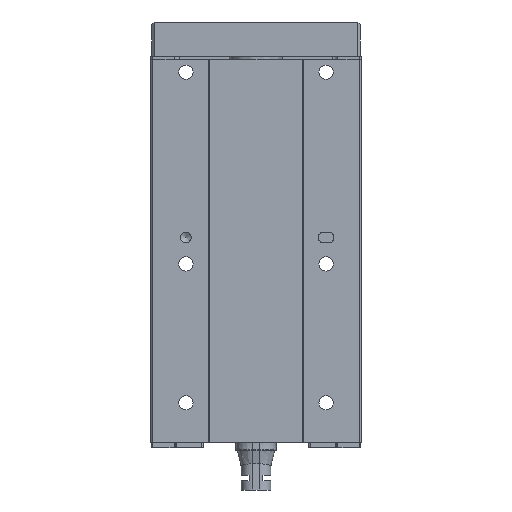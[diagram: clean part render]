
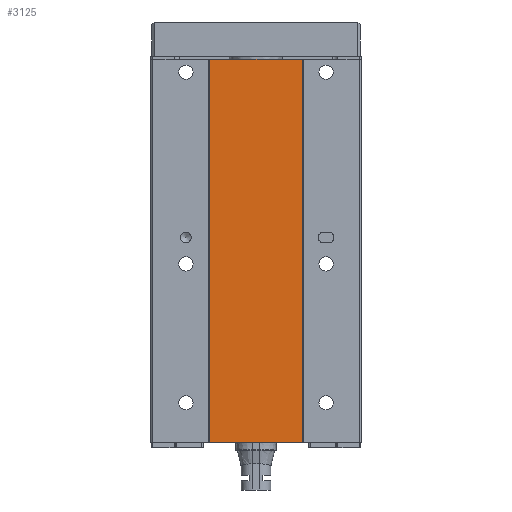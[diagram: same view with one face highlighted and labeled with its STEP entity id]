
A CAD part, front view. The second image highlights one B-rep face of the part: STEP entity #3125.
In plain terms, the highlighted planar face has unit normal (0, -1, 0).
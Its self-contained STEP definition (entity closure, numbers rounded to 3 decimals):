
#1444=CARTESIAN_POINT('',(17.5,0.0,-145.0));
#1445=VERTEX_POINT('',#1444);
#1452=CARTESIAN_POINT('',(-17.5,0.0,-145.0));
#1453=VERTEX_POINT('',#1452);
#1454=CARTESIAN_POINT('',(17.5,0.0,-145.0));
#1455=DIRECTION('',(-1.0,0.0,0.0));
#1456=VECTOR('',#1455,35.);
#1457=LINE('',#1454,#1456);
#1458=EDGE_CURVE('',#1445,#1453,#1457,.T.);
#2354=CARTESIAN_POINT('',(-17.5,0.0,0.0));
#2355=VERTEX_POINT('',#2354);
#2362=CARTESIAN_POINT('',(17.5,0.0,0.0));
#2363=VERTEX_POINT('',#2362);
#2364=CARTESIAN_POINT('',(-17.5,0.0,0.0));
#2365=DIRECTION('',(1.0,0.0,0.0));
#2366=VECTOR('',#2365,35.);
#2367=LINE('',#2364,#2366);
#2368=EDGE_CURVE('',#2355,#2363,#2367,.T.);
#3100=CARTESIAN_POINT('',(-17.5,0.0,0.0));
#3101=DIRECTION('',(0.0,0.0,-1.0));
#3102=VECTOR('',#3101,145.0);
#3103=LINE('',#3100,#3102);
#3104=EDGE_CURVE('',#2355,#1453,#3103,.T.);
#3109=CARTESIAN_POINT('',(17.5,0.0,0.0));
#3110=DIRECTION('',(0.0,-1.0,0.0));
#3111=DIRECTION('',(0.0,0.0,-1.0));
#3112=AXIS2_PLACEMENT_3D('',#3109,#3110,#3111);
#3113=PLANE('',#3112);
#3114=ORIENTED_EDGE('',*,*,#2368,.F.);
#3115=ORIENTED_EDGE('',*,*,#3104,.T.);
#3116=ORIENTED_EDGE('',*,*,#1458,.F.);
#3117=CARTESIAN_POINT('',(17.5,0.0,0.0));
#3118=DIRECTION('',(0.0,0.0,-1.0));
#3119=VECTOR('',#3118,145.0);
#3120=LINE('',#3117,#3119);
#3121=EDGE_CURVE('',#2363,#1445,#3120,.T.);
#3122=ORIENTED_EDGE('',*,*,#3121,.F.);
#3123=EDGE_LOOP('',(#3114,#3115,#3116,#3122));
#3124=FACE_OUTER_BOUND('',#3123,.T.);
#3125=ADVANCED_FACE('',(#3124),#3113,.T.);
